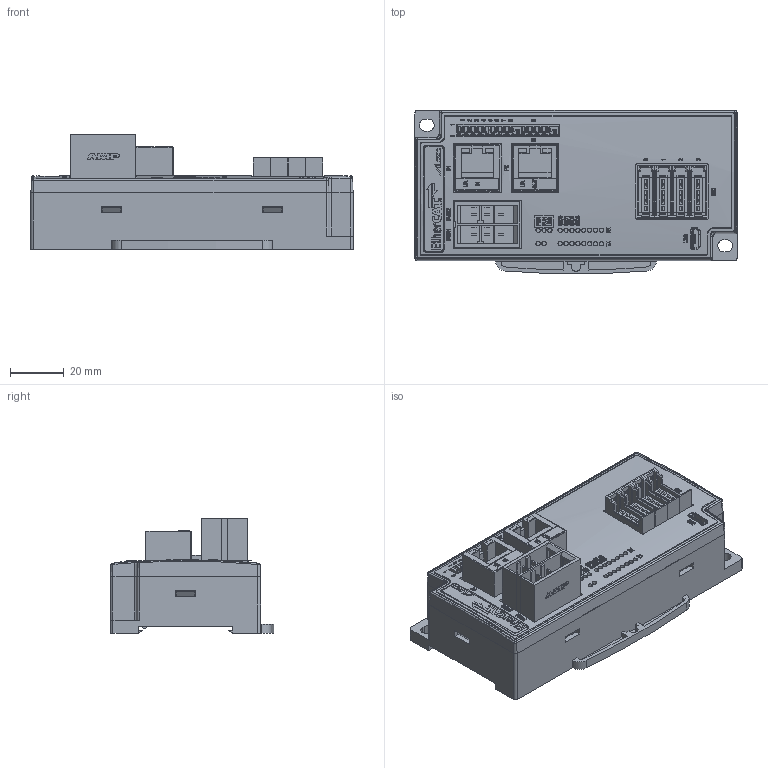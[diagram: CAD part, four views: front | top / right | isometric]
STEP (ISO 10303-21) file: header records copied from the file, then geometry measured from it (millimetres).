
FILE_DESCRIPTION((''),'2;1');
FILE_NAME('ECES','2026-05-11T15:44:12',('gijyu181'),(''),'CREO PARAMETRIC BY PTC INC, 2018050','CREO PARAMETRIC BY PTC INC, 2018050','');
FILE_SCHEMA(('CONFIG_CONTROL_DESIGN','SHAPE_APPEARANCE_LAYERS_GROUPS'));
Products named in the file (1): ECES
Bounding box: 120 x 60.87 x 42.6 mm (x, y, z)
Volume: 103916.8 mm3; surface area: 67568.8 mm2
Topology: 4 solids, 4 shells, 7467 faces, 21315 edges, 14095 vertices
Faces by surface type: plane 5805, extrusion 959, cylinder 569, bspline 69, cone 41, torus 20, sphere 4
Entity records: 312584 total; most frequent: CARTESIAN_POINT 72031, ORIENTED_EDGE 42630, DIRECTION 33693, EDGE_CURVE 21315, VECTOR 18639, LINE 17680, VERTEX_POINT 14095, EDGE_LOOP 8408
